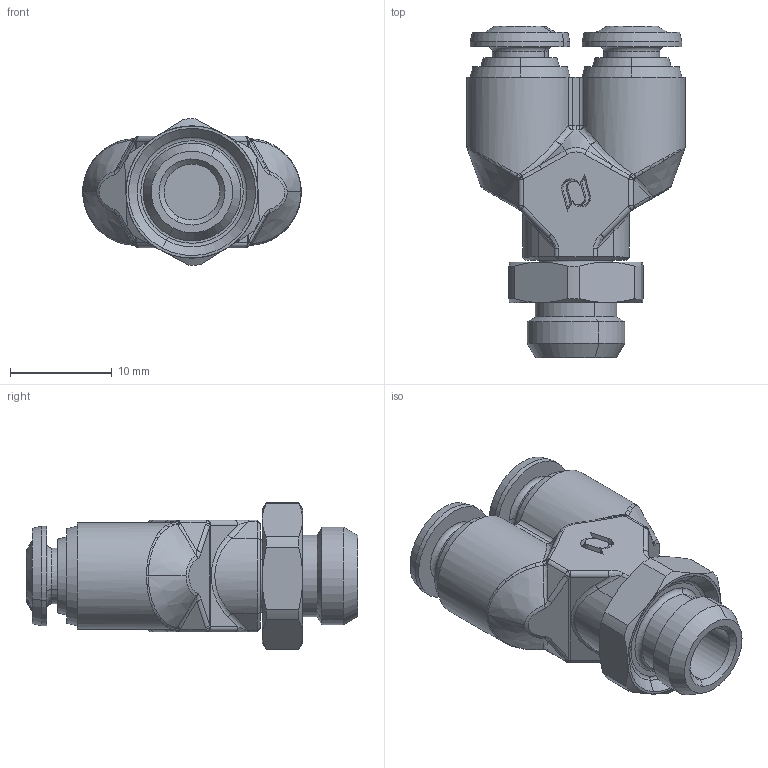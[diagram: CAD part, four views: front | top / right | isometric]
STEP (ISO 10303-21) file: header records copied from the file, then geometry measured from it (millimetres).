
FILE_DESCRIPTION (( 'STEP AP203' ), '1' );
FILE_NAME ('5032600003A.STEP', '2019-11-20T09:02:41', ( '' ), ( '' ), 'SwSTEP 2.0', 'SolidWorks 2016', '' );
FILE_SCHEMA (( 'CONFIG_CONTROL_DESIGN' ));
Length unit declared in the file: millimetre
Products named in the file (1): 5032600003A
Bounding box: 21.5 x 32.6 x 14.4 mm (x, y, z)
Volume: 3770.7 mm3; surface area: 2583.1 mm2
Topology: 1 solids, 1 shells, 453 faces, 1091 edges, 668 vertices
Faces by surface type: bspline 206, cone 75, plane 73, cylinder 70, torus 17, sphere 12
Entity records: 23295 total; most frequent: CARTESIAN_POINT 14069, ORIENTED_EDGE 2174, DIRECTION 1466, EDGE_CURVE 1087, VERTEX_POINT 668, AXIS2_PLACEMENT_3D 567, EDGE_LOOP 485, ADVANCED_FACE 453
